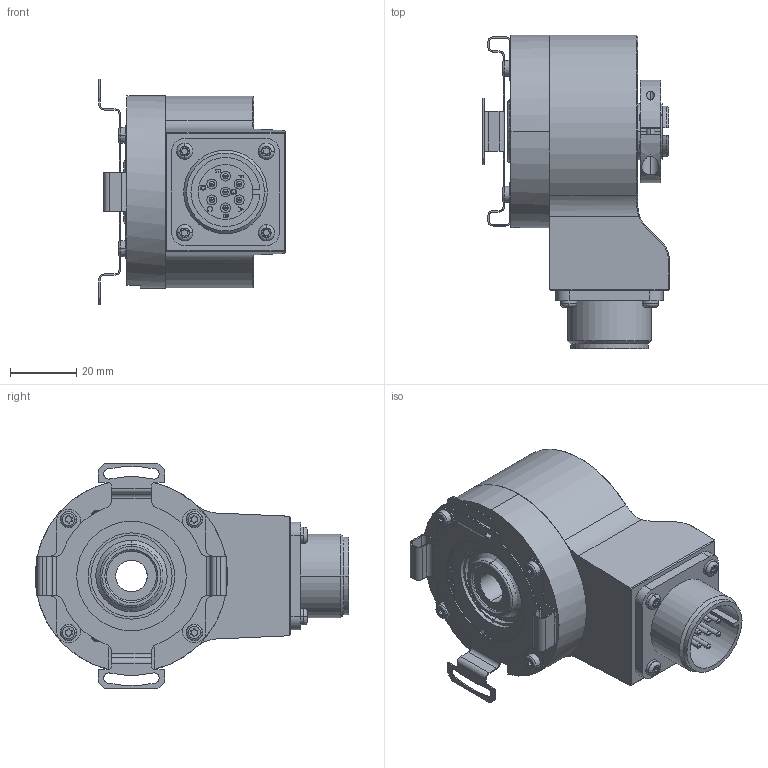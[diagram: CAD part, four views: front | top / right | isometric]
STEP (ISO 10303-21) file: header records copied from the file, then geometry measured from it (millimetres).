
FILE_DESCRIPTION (( 'STEP AP203' ), '1' );
FILE_NAME ('K58I.OXX.XXXXX.XC2252A.6XRCH.step', '2025-12-08T12:16:25', ( '' ), ( '' ), 'SwSTEP 2.0', 'SolidWorks 2021', '' );
FILE_SCHEMA (( 'CONFIG_CONTROL_DESIGN' ));
Length unit declared in the file: millimetre
Products named in the file (1): K58I.OXX.XXXXX.XC2252A.6XRCH
Bounding box: 56.19 x 94.5 x 68 mm (x, y, z)
Volume: 134936.8 mm3; surface area: 45102.2 mm2
Topology: 8 solids, 8 shells, 792 faces, 1981 edges, 1246 vertices
Faces by surface type: cylinder 344, plane 307, cone 61, bspline 50, torus 30
Entity records: 27628 total; most frequent: CARTESIAN_POINT 8478, DIRECTION 4087, ORIENTED_EDGE 3934, EDGE_CURVE 1967, AXIS2_PLACEMENT_3D 1539, VERTEX_POINT 1246, LINE 1009, VECTOR 1009
